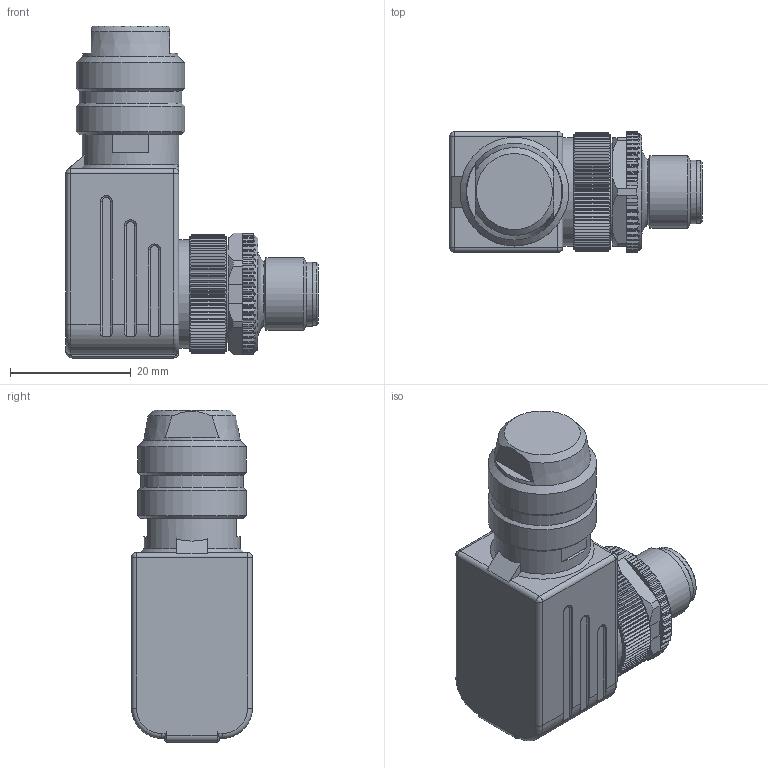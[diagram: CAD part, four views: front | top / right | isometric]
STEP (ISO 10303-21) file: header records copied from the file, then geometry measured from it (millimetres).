
FILE_DESCRIPTION(/* description */ (''),/* implementation_level */ '2;1');
FILE_NAME(/* name */ '99_1437_822_05_001_01.stp',/* time_stamp */ '2015-11-02T14:26:51+01:00',/* author */ (''),/* organization */ (''),/* preprocessor_version */ 'ST-DEVELOPER v14',/* originating_system */ 'SIEMENS PLM Software NX 8.0',/* authorisation */ '');
FILE_SCHEMA (('AUTOMOTIVE_DESIGN { 1 0 10303 214 3 1 1 1 }'));
Length unit declared in the file: millimetre
Products named in the file (1): cerl1624C2DC6ja5
Bounding box: 41.8 x 20.16 x 55 mm (x, y, z)
Volume: 20812.4 mm3; surface area: 6293.5 mm2
Topology: 1 solids, 2 shells, 906 faces, 2232 edges, 1334 vertices
Faces by surface type: plane 401, cylinder 262, cone 217, torus 15, sphere 9, bspline 2
Full cylindrical faces by diameter (mm): 1 x5, 8.3 x1, 10.3 x1, 10.6 x1, 12 x1, 16 x1, 16.3 x1, 17 x1, 18 x3
Entity records: 28198 total; most frequent: CARTESIAN_POINT 7992, ORIENTED_EDGE 4350, DIRECTION 4017, EDGE_CURVE 2175, AXIS2_PLACEMENT_3D 1584, VERTEX_POINT 1314, EDGE_LOOP 947, ADVANCED_FACE 906
